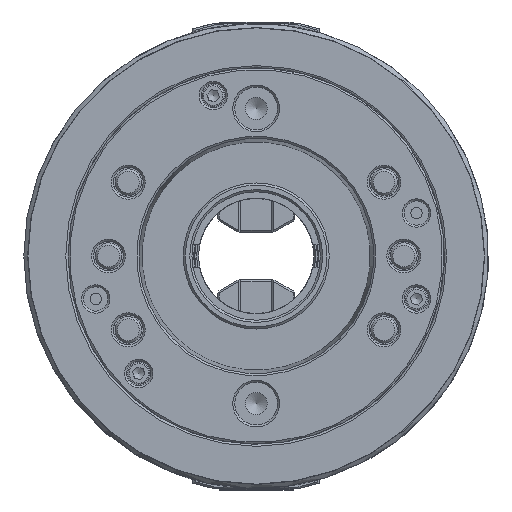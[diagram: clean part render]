
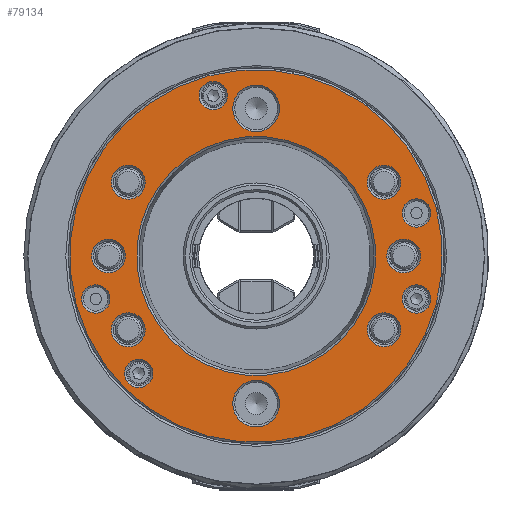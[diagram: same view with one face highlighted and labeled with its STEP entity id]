
A CAD part, front view. The second image highlights one B-rep face of the part: STEP entity #79134.
In plain terms, the highlighted planar face has unit normal (0, -1, 0).
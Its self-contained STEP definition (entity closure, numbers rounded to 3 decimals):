
#3323=FACE_BOUND('',#11149,.T.);
#3324=FACE_BOUND('',#11150,.T.);
#3325=FACE_BOUND('',#11151,.T.);
#3326=FACE_BOUND('',#11152,.T.);
#3327=FACE_BOUND('',#11153,.T.);
#3328=FACE_BOUND('',#11154,.T.);
#3329=FACE_BOUND('',#11155,.T.);
#3330=FACE_BOUND('',#11156,.T.);
#3331=FACE_BOUND('',#11157,.T.);
#3332=FACE_BOUND('',#11158,.T.);
#3333=FACE_BOUND('',#11159,.T.);
#3334=FACE_BOUND('',#11160,.T.);
#3335=FACE_BOUND('',#11161,.T.);
#3336=FACE_BOUND('',#11162,.T.);
#4173=PLANE('',#83983);
#7034=FACE_OUTER_BOUND('',#11148,.T.);
#11148=EDGE_LOOP('',(#58522));
#11149=EDGE_LOOP('',(#58523));
#11150=EDGE_LOOP('',(#58524));
#11151=EDGE_LOOP('',(#58525));
#11152=EDGE_LOOP('',(#58526));
#11153=EDGE_LOOP('',(#58527));
#11154=EDGE_LOOP('',(#58528));
#11155=EDGE_LOOP('',(#58529));
#11156=EDGE_LOOP('',(#58530));
#11157=EDGE_LOOP('',(#58531));
#11158=EDGE_LOOP('',(#58532));
#11159=EDGE_LOOP('',(#58533));
#11160=EDGE_LOOP('',(#58534));
#11161=EDGE_LOOP('',(#58535));
#11162=EDGE_LOOP('',(#58536));
#14936=CIRCLE('',#83984,84.2);
#14937=CIRCLE('',#83985,6.4);
#14938=CIRCLE('',#83986,6.4);
#14939=CIRCLE('',#83987,6.4);
#14940=CIRCLE('',#83988,6.4);
#14941=CIRCLE('',#83989,6.4);
#14942=CIRCLE('',#83990,7.65);
#14943=CIRCLE('',#83991,7.65);
#14944=CIRCLE('',#83992,7.65);
#14945=CIRCLE('',#83993,7.65);
#14946=CIRCLE('',#83994,7.65);
#14947=CIRCLE('',#83995,7.65);
#14948=CIRCLE('',#83996,10.55);
#14949=CIRCLE('',#83997,10.55);
#14950=CIRCLE('',#83998,54.012);
#35535=VERTEX_POINT('',#116334);
#35536=VERTEX_POINT('',#116336);
#35537=VERTEX_POINT('',#116338);
#35538=VERTEX_POINT('',#116340);
#35539=VERTEX_POINT('',#116342);
#35540=VERTEX_POINT('',#116344);
#35541=VERTEX_POINT('',#116346);
#35542=VERTEX_POINT('',#116348);
#35543=VERTEX_POINT('',#116350);
#35544=VERTEX_POINT('',#116352);
#35545=VERTEX_POINT('',#116354);
#35546=VERTEX_POINT('',#116356);
#35547=VERTEX_POINT('',#116358);
#35548=VERTEX_POINT('',#116360);
#35549=VERTEX_POINT('',#116362);
#44353=EDGE_CURVE('',#35535,#35535,#14936,.T.);
#44354=EDGE_CURVE('',#35536,#35536,#14937,.T.);
#44355=EDGE_CURVE('',#35537,#35537,#14938,.T.);
#44356=EDGE_CURVE('',#35538,#35538,#14939,.T.);
#44357=EDGE_CURVE('',#35539,#35539,#14940,.T.);
#44358=EDGE_CURVE('',#35540,#35540,#14941,.T.);
#44359=EDGE_CURVE('',#35541,#35541,#14942,.T.);
#44360=EDGE_CURVE('',#35542,#35542,#14943,.T.);
#44361=EDGE_CURVE('',#35543,#35543,#14944,.T.);
#44362=EDGE_CURVE('',#35544,#35544,#14945,.T.);
#44363=EDGE_CURVE('',#35545,#35545,#14946,.T.);
#44364=EDGE_CURVE('',#35546,#35546,#14947,.T.);
#44365=EDGE_CURVE('',#35547,#35547,#14948,.T.);
#44366=EDGE_CURVE('',#35548,#35548,#14949,.T.);
#44367=EDGE_CURVE('',#35549,#35549,#14950,.T.);
#58522=ORIENTED_EDGE('',*,*,#44353,.T.);
#58523=ORIENTED_EDGE('',*,*,#44354,.T.);
#58524=ORIENTED_EDGE('',*,*,#44355,.T.);
#58525=ORIENTED_EDGE('',*,*,#44356,.T.);
#58526=ORIENTED_EDGE('',*,*,#44357,.T.);
#58527=ORIENTED_EDGE('',*,*,#44358,.T.);
#58528=ORIENTED_EDGE('',*,*,#44359,.T.);
#58529=ORIENTED_EDGE('',*,*,#44360,.T.);
#58530=ORIENTED_EDGE('',*,*,#44361,.T.);
#58531=ORIENTED_EDGE('',*,*,#44362,.T.);
#58532=ORIENTED_EDGE('',*,*,#44363,.T.);
#58533=ORIENTED_EDGE('',*,*,#44364,.T.);
#58534=ORIENTED_EDGE('',*,*,#44365,.T.);
#58535=ORIENTED_EDGE('',*,*,#44366,.T.);
#58536=ORIENTED_EDGE('',*,*,#44367,.T.);
#79134=ADVANCED_FACE('',(#7034,#3323,#3324,#3325,#3326,#3327,#3328,#3329,
#3330,#3331,#3332,#3333,#3334,#3335,#3336),#4173,.T.);
#83983=AXIS2_PLACEMENT_3D('',#116333,#93682,#93683);
#83984=AXIS2_PLACEMENT_3D('',#116335,#93684,#93685);
#83985=AXIS2_PLACEMENT_3D('',#116337,#93686,#93687);
#83986=AXIS2_PLACEMENT_3D('',#116339,#93688,#93689);
#83987=AXIS2_PLACEMENT_3D('',#116341,#93690,#93691);
#83988=AXIS2_PLACEMENT_3D('',#116343,#93692,#93693);
#83989=AXIS2_PLACEMENT_3D('',#116345,#93694,#93695);
#83990=AXIS2_PLACEMENT_3D('',#116347,#93696,#93697);
#83991=AXIS2_PLACEMENT_3D('',#116349,#93698,#93699);
#83992=AXIS2_PLACEMENT_3D('',#116351,#93700,#93701);
#83993=AXIS2_PLACEMENT_3D('',#116353,#93702,#93703);
#83994=AXIS2_PLACEMENT_3D('',#116355,#93704,#93705);
#83995=AXIS2_PLACEMENT_3D('',#116357,#93706,#93707);
#83996=AXIS2_PLACEMENT_3D('',#116359,#93708,#93709);
#83997=AXIS2_PLACEMENT_3D('',#116361,#93710,#93711);
#83998=AXIS2_PLACEMENT_3D('',#116363,#93712,#93713);
#93682=DIRECTION('center_axis',(0.,-1.,0.));
#93683=DIRECTION('ref_axis',(-0.966,0.,-0.259));
#93684=DIRECTION('center_axis',(0.,-1.,0.));
#93685=DIRECTION('ref_axis',(-0.259,0.,0.966));
#93686=DIRECTION('center_axis',(0.,1.,0.));
#93687=DIRECTION('ref_axis',(-0.707,0.,-0.707));
#93688=DIRECTION('center_axis',(0.,1.,0.));
#93689=DIRECTION('ref_axis',(0.966,0.,-0.259));
#93690=DIRECTION('center_axis',(0.,1.,0.));
#93691=DIRECTION('ref_axis',(-0.259,0.,0.966));
#93692=DIRECTION('center_axis',(0.,1.,0.));
#93693=DIRECTION('ref_axis',(0.259,0.,-0.966));
#93694=DIRECTION('center_axis',(0.,1.,0.));
#93695=DIRECTION('ref_axis',(-0.259,0.,0.966));
#93696=DIRECTION('center_axis',(0.,1.,0.));
#93697=DIRECTION('ref_axis',(0.259,0.,-0.966));
#93698=DIRECTION('center_axis',(0.,1.,0.));
#93699=DIRECTION('ref_axis',(0.259,0.,-0.966));
#93700=DIRECTION('center_axis',(0.,1.,0.));
#93701=DIRECTION('ref_axis',(0.259,0.,-0.966));
#93702=DIRECTION('center_axis',(0.,1.,0.));
#93703=DIRECTION('ref_axis',(-0.259,0.,0.966));
#93704=DIRECTION('center_axis',(0.,1.,0.));
#93705=DIRECTION('ref_axis',(-0.259,0.,0.966));
#93706=DIRECTION('center_axis',(0.,1.,0.));
#93707=DIRECTION('ref_axis',(-0.259,0.,0.966));
#93708=DIRECTION('center_axis',(0.,1.,0.));
#93709=DIRECTION('ref_axis',(0.259,0.,-0.966));
#93710=DIRECTION('center_axis',(0.,1.,0.));
#93711=DIRECTION('ref_axis',(-0.259,0.,0.966));
#93712=DIRECTION('center_axis',(0.,1.,0.));
#93713=DIRECTION('ref_axis',(-0.259,0.,0.966));
#116333=CARTESIAN_POINT('Origin',(22.,-12.,-82.104));
#116334=CARTESIAN_POINT('',(21.793,-12.,-81.331));
#116335=CARTESIAN_POINT('Origin',(0.,-12.,0.));
#116336=CARTESIAN_POINT('',(76.97,-12.,-14.886));
#116337=CARTESIAN_POINT('Origin',(72.444,-12.,-19.411));
#116338=CARTESIAN_POINT('',(-25.593,-12.,74.101));
#116339=CARTESIAN_POINT('Origin',(-19.411,-12.,72.444));
#116340=CARTESIAN_POINT('',(-51.377,-12.,-59.215));
#116341=CARTESIAN_POINT('Origin',(-53.033,-12.,-53.033));
#116342=CARTESIAN_POINT('',(-74.101,-12.,-13.23));
#116343=CARTESIAN_POINT('Origin',(-72.444,-12.,-19.411));
#116344=CARTESIAN_POINT('',(74.101,-12.,13.23));
#116345=CARTESIAN_POINT('Origin',(72.444,-12.,19.411));
#116346=CARTESIAN_POINT('',(55.784,-12.,40.739));
#116347=CARTESIAN_POINT('Origin',(57.764,-12.,33.35));
#116348=CARTESIAN_POINT('',(55.784,-12.,-25.961));
#116349=CARTESIAN_POINT('Origin',(57.764,-12.,-33.35));
#116350=CARTESIAN_POINT('',(64.72,-12.,7.389));
#116351=CARTESIAN_POINT('Origin',(66.7,-12.,0.));
#116352=CARTESIAN_POINT('',(-55.784,-12.,-40.739));
#116353=CARTESIAN_POINT('Origin',(-57.764,-12.,-33.35));
#116354=CARTESIAN_POINT('',(-55.784,-12.,25.961));
#116355=CARTESIAN_POINT('Origin',(-57.764,-12.,33.35));
#116356=CARTESIAN_POINT('',(-64.72,-12.,-7.389));
#116357=CARTESIAN_POINT('Origin',(-66.7,-12.,0.));
#116358=CARTESIAN_POINT('',(-2.731,-12.,76.891));
#116359=CARTESIAN_POINT('Origin',(0.,-12.,66.7));
#116360=CARTESIAN_POINT('',(2.731,-12.,-76.891));
#116361=CARTESIAN_POINT('Origin',(0.,-12.,-66.7));
#116362=CARTESIAN_POINT('',(13.979,-12.,-52.171));
#116363=CARTESIAN_POINT('Origin',(0.,-12.,0.));
